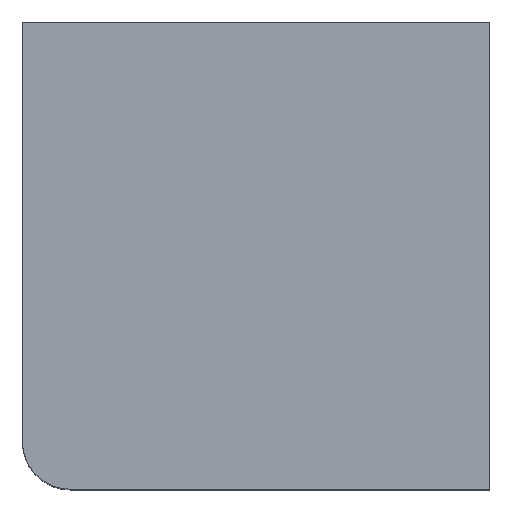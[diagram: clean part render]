
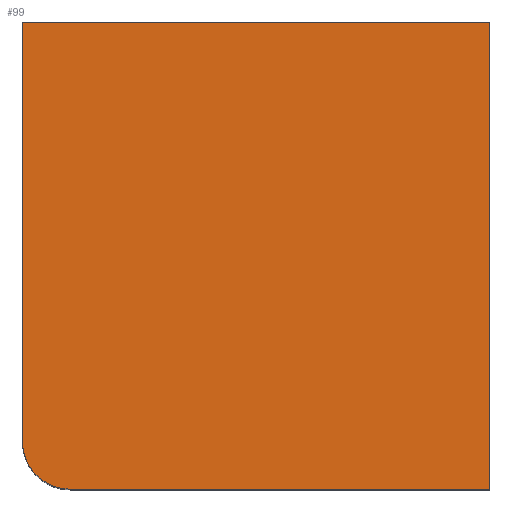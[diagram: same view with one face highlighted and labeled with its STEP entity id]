
A CAD part, top view. The second image highlights one B-rep face of the part: STEP entity #99.
In plain terms, the highlighted planar face has unit normal (0, 0, 1).
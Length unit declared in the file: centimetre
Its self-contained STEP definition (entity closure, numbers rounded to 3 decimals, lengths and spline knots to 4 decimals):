
#2 = CARTESIAN_POINT ( 'NONE',  ( 0., 1000., 1000. ) ) ;
#22 = CARTESIAN_POINT ( 'NONE',  ( 1000., 0., 1000. ) ) ;
#28 = PLANE ( 'NONE',  #392 ) ;
#32 = DIRECTION ( 'NONE',  ( 0., 0., 1. ) ) ;
#35 = DIRECTION ( 'NONE',  ( 1., 0., 0. ) ) ;
#41 = ORIENTED_EDGE ( 'NONE', *, *, #421, .T. ) ;
#54 = VECTOR ( 'NONE', #471, 100. ) ;
#56 = VECTOR ( 'NONE', #181, 100. ) ;
#82 = CARTESIAN_POINT ( 'NONE',  ( 0., 102.2556, 1000. ) ) ;
#88 = DIRECTION ( 'NONE',  ( 1., 0., 0. ) ) ;
#97 = VERTEX_POINT ( 'NONE', #22 ) ;
#99 = ADVANCED_FACE ( 'NONE', ( #360 ), #28, .T. ) ;
#102 = CIRCLE ( 'NONE', #260, 102.2556 ) ;
#108 = VERTEX_POINT ( 'NONE', #399 ) ;
#112 = CARTESIAN_POINT ( 'NONE',  ( 0., 1000., 1000. ) ) ;
#117 = LINE ( 'NONE', #112, #56 ) ;
#126 = EDGE_CURVE ( 'NONE', #108, #340, #198, .T. ) ;
#163 = EDGE_LOOP ( 'NONE', ( #180, #210, #428, #41, #184 ) ) ;
#168 = CARTESIAN_POINT ( 'NONE',  ( 0., 1000., 1000. ) ) ;
#180 = ORIENTED_EDGE ( 'NONE', *, *, #407, .T. ) ;
#181 = DIRECTION ( 'NONE',  ( 0., -1., 0. ) ) ;
#184 = ORIENTED_EDGE ( 'NONE', *, *, #126, .T. ) ;
#198 = LINE ( 'NONE', #168, #54 ) ;
#210 = ORIENTED_EDGE ( 'NONE', *, *, #224, .T. ) ;
#218 = CARTESIAN_POINT ( 'NONE',  ( 1000., 1000., 1000. ) ) ;
#224 = EDGE_CURVE ( 'NONE', #251, #366, #102, .T. ) ;
#230 = CARTESIAN_POINT ( 'NONE',  ( 0., 0., 1000. ) ) ;
#239 = VECTOR ( 'NONE', #35, 100. ) ;
#251 = VERTEX_POINT ( 'NONE', #82 ) ;
#252 = LINE ( 'NONE', #218, #364 ) ;
#260 = AXIS2_PLACEMENT_3D ( 'NONE', #292, #349, #88 ) ;
#281 = DIRECTION ( 'NONE',  ( 0., 1., 0. ) ) ;
#292 = CARTESIAN_POINT ( 'NONE',  ( 102.2556, 102.2556, 1000. ) ) ;
#314 = EDGE_CURVE ( 'NONE', #366, #97, #369, .T. ) ;
#319 = DIRECTION ( 'NONE',  ( 1., 0., 0. ) ) ;
#340 = VERTEX_POINT ( 'NONE', #2 ) ;
#349 = DIRECTION ( 'NONE',  ( 0., 0., 1. ) ) ;
#358 = CARTESIAN_POINT ( 'NONE',  ( 102.2556, 0., 1000. ) ) ;
#360 = FACE_OUTER_BOUND ( 'NONE', #163, .T. ) ;
#362 = CARTESIAN_POINT ( 'NONE',  ( 0., 0., 1000. ) ) ;
#364 = VECTOR ( 'NONE', #281, 100. ) ;
#366 = VERTEX_POINT ( 'NONE', #358 ) ;
#369 = LINE ( 'NONE', #362, #239 ) ;
#392 = AXIS2_PLACEMENT_3D ( 'NONE', #230, #32, #319 ) ;
#399 = CARTESIAN_POINT ( 'NONE',  ( 1000., 1000., 1000. ) ) ;
#407 = EDGE_CURVE ( 'NONE', #340, #251, #117, .T. ) ;
#421 = EDGE_CURVE ( 'NONE', #97, #108, #252, .T. ) ;
#428 = ORIENTED_EDGE ( 'NONE', *, *, #314, .T. ) ;
#471 = DIRECTION ( 'NONE',  ( -1., 0., 0. ) ) ;
